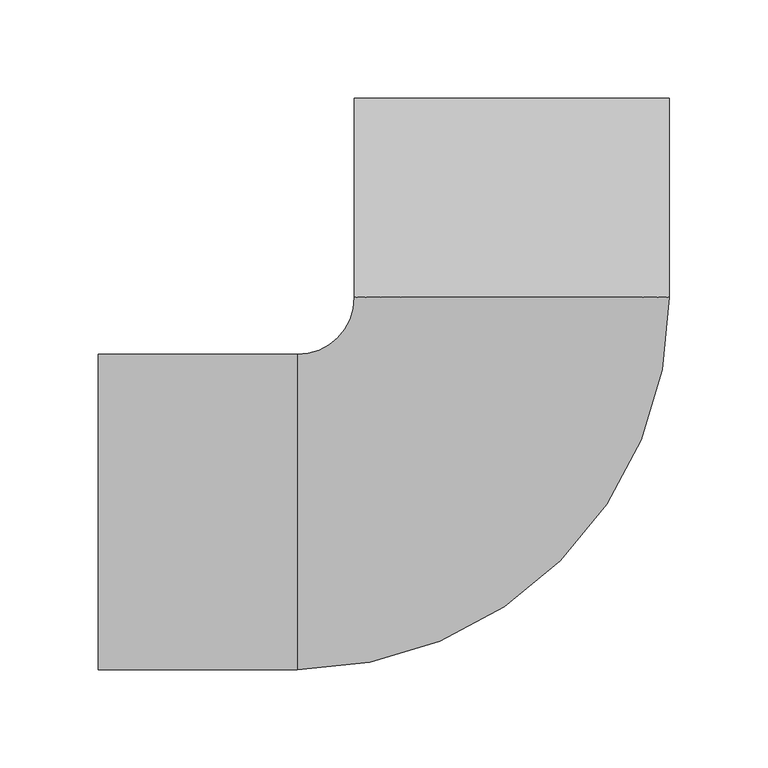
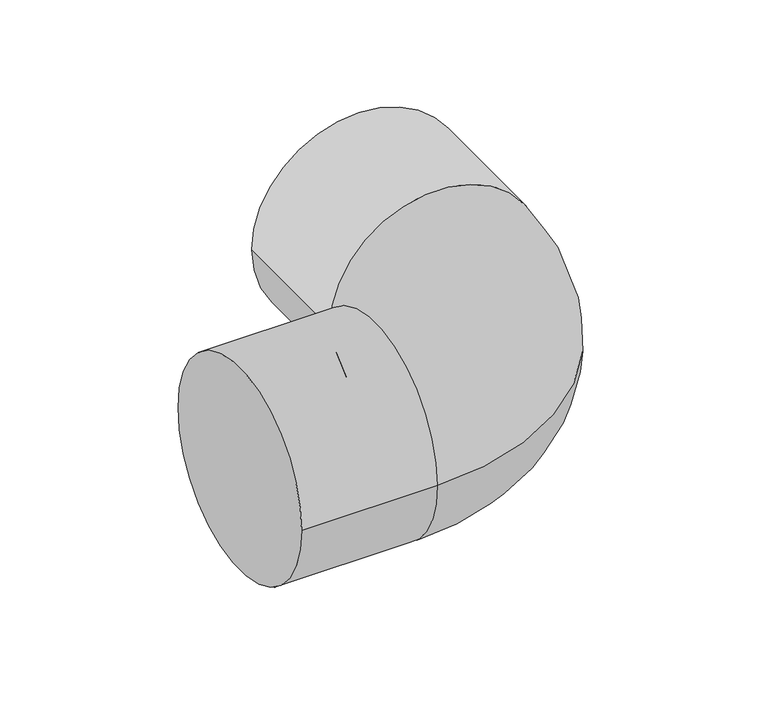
"""IFC4 building model written with IfcOpenShell, lengths in millimetres: pipe fitting geometry, NIRON RED termofusion codo SDR 11 : Estándar."""

from ifc_helpers import new_model, si_unit, point, frame, origin, place, context, project, spatial, circle_curve, ellipse_curve, trimmed, source, transform, mapped, element, save
from ifc_brep_helpers import plane_surface, cylinder_surface, revolved_surface, advanced_brep


def pipe_fitting_29c2ef4c(model_context):
    return source(origin(), model_context, "Body", "AdvancedBrep", [
        advanced_brep(
        [(-210.0, -80.0, 0.0), (-210.0, 80.0, 0.0), (-109.0, -80.0, 0.0), (-109.0, 80.0, 0.0), (-80.0, 109.0, 0.0), (80.0, 109.0, 0.0), (0.0, 109.0, 80.0), (0.0, 109.0, -80.0), (80.0, 210.0, 0.0), (-80.0, 210.0, 0.0)],
        [
            (0, 1, circle_curve(frame((-210.0, 0.0, 0.0), z_axis=(-1.0, 0.0, 0.0), x_axis=(0.0, 1.0, 0.0)), 80.0)),
            (1, 0, circle_curve(frame((-210.0, 0.0, 0.0), z_axis=(-1.0, 0.0, 0.0), x_axis=(0.0, 1.0, 0.0)), 80.0)),
            (0, 2),
            (2, 3, circle_curve(frame((-109.0, 0.0, 0.0), z_axis=(-1.0, 0.0, 0.0), x_axis=(0.0, 1.0, 0.0)), 80.0)),
            (3, 1),
            (3, 2, circle_curve(frame((-109.0, 0.0, 0.0), z_axis=(-1.0, 0.0, 0.0), x_axis=(0.0, 1.0, 0.0)), 80.0)),
            (4, 3, circle_curve(frame((-109.0, 109.0, 0.0), z_axis=(0.0, 0.0, -1.0), x_axis=(0.0, -1.0, 0.0)), 29.0)),
            (2, 5, circle_curve(frame((-109.0, 109.0, 0.0), z_axis=(0.0, 0.0, 1.0), x_axis=(0.0, -1.0, 0.0)), 189.0)),
            (5, 6, circle_curve(frame((0.0, 109.0, 0.0), z_axis=(0.0, -1.0, 0.0), x_axis=(-1.0, 0.0, 0.0)), 80.0)),
            (6, 4, circle_curve(frame((0.0, 109.0, 0.0), z_axis=(0.0, -1.0, 0.0), x_axis=(-1.0, 0.0, 0.0)), 80.0)),
            (4, 7, circle_curve(frame((0.0, 109.0, 0.0), z_axis=(0.0, -1.0, 0.0), x_axis=(-1.0, 0.0, 0.0)), 80.0)),
            (7, 5, circle_curve(frame((0.0, 109.0, 0.0), z_axis=(0.0, -1.0, 0.0), x_axis=(-1.0, 0.0, 0.0)), 80.0)),
            (8, 9, circle_curve(frame((0.0, 210.0, 0.0), z_axis=(0.0, 1.0, 0.0), x_axis=(-1.0, 0.0, 0.0)), 80.0)),
            (9, 8, circle_curve(frame((0.0, 210.0, 0.0), z_axis=(0.0, 1.0, 0.0), x_axis=(-1.0, 0.0, 0.0)), 80.0)),
            (9, 4),
            (5, 8),
        ],
        [
            plane_surface(frame((-210.0, 0.0, 0.0), z_axis=(-1.0, 0.0, 0.0), x_axis=(0.0, 0.0, 1.0))),
            cylinder_surface(frame((-210.0, 0.0, 0.0), z_axis=(-1.0, 0.0, 0.0), x_axis=(0.0, 1.0, 0.0)), 80.0),
            revolved_surface(trimmed(ellipse_curve(frame((-109.0, 0.0, 0.0), z_axis=(-1.0, 0.0, 0.0), x_axis=(0.0, 1.0, 0.0)), 80.0, 80.0), [point((-109.0, -80.0, 0.0))], [point((-109.0, 80.0, 0.0))], True, "CARTESIAN"), (-109.0, 109.0, 0.0), (0.0, 0.0, 1.0)),
            revolved_surface(trimmed(ellipse_curve(frame((-109.0, 0.0, 0.0), z_axis=(-1.0, 0.0, 0.0), x_axis=(0.0, 1.0, 0.0)), 80.0, 80.0), [point((-109.0, 80.0, 0.0))], [point((-109.0, -80.0, 0.0))], True, "CARTESIAN"), (-109.0, 109.0, 0.0), (0.0, 0.0, 1.0)),
            plane_surface(frame((0.0, 210.0, 0.0), z_axis=(0.0, 1.0, 0.0), x_axis=(0.0, 0.0, 1.0))),
            cylinder_surface(frame((0.0, 109.0, 0.0), z_axis=(0.0, -1.0, 0.0), x_axis=(-1.0, 0.0, 0.0)), 80.0),
        ],
        [
            (0, [[1, 2]]),
            (1, [[-1, 3, 4, 5]]),
            (1, [[-2, -5, 6, -3]]),
            (2, [[7, -4, 8, 9, 10]]),
            (3, [[-7, 11, 12, -8, -6]]),
            (4, [[13, 14]]),
            (5, [[-14, 15, -10, -9, 16]]),
            (5, [[-13, -16, -12, -11, -15]]),
        ],
    ),
    ])


if __name__ == "__main__":
    model = new_model("IFC4")
    model_context = context("Model", 3, world=origin())
    ifc_project = project(units=[si_unit("LENGTHUNIT", "METRE", prefix="MILLI")], contexts=[model_context])
    site = spatial("IfcSite", under=ifc_project)
    building = spatial("IfcBuilding", under=site)
    placement = place(None, origin())
    pipe_fitting_shape = pipe_fitting_29c2ef4c(model_context)
    element("IfcPipeFitting", 1, ObjectType="NIRON RED termofusion codo SDR 11 : Estándar", at=placement, inside=building, context=model_context, shape_type="MappedRepresentation", body=[
        mapped(pipe_fitting_shape, transform((0.0, 0.0, 0.0), x_axis=(1.0, 0.0, 0.0), y_axis=(0.0, 1.0, 0.0), z_axis=(0.0, 0.0, 1.0))),
    ])
    save(model, "model.ifc")
